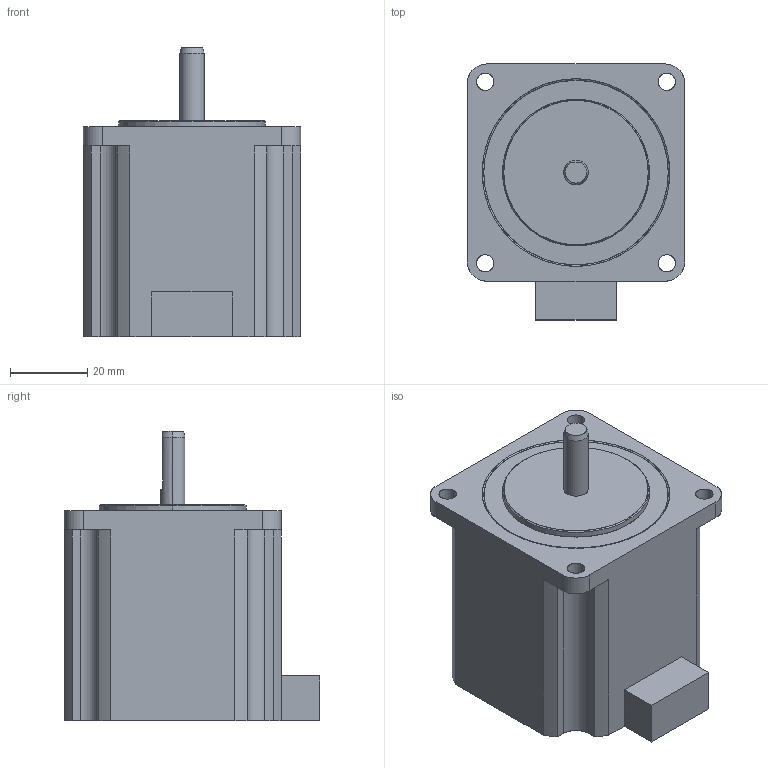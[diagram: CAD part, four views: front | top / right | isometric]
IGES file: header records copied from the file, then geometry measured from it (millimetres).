
Start section: SolidWorks IGES file using analytic representation for surfaces
Global section: file name: \\MCADserv\kari\7666\Plexmotion New 3D data\PMSA-U56D3_3D\PMSA-U56D3_3D.IGS; native system: SolidWorks 2014; preprocessor: SolidWorks 2014; author: user0016; date: 161115.135349; units: millimetre
Bounding box: 56.4 x 66.4 x 75.1 mm (x, y, z)
Surface area: 18986.5 mm2 (no closed solid volume)
Topology: 0 solids, 0 shells, 62 faces, 1002 edges, 1002 vertices
Faces by surface type: revolution 35, bspline 27
